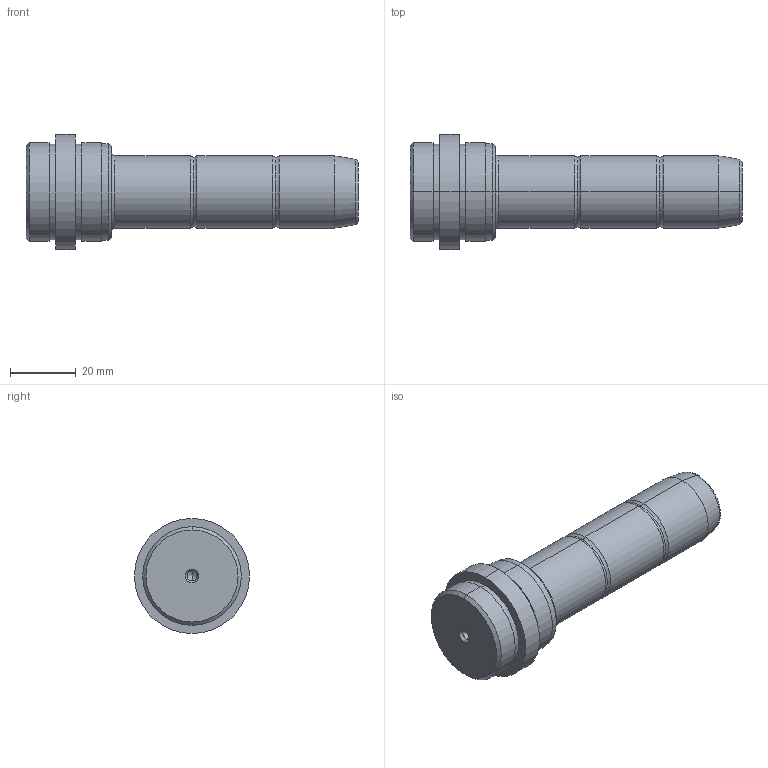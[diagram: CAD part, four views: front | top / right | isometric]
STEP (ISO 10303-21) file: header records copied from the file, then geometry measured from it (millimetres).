
FILE_DESCRIPTION( ( 'STEP AP203' ), '1' );
FILE_NAME( 'C:/Projects/D03 - 22x17x75.step', '2003-01-03T00:36:16', ( ' ' ), ( ' ' ), 'XStep 1.0', ' ', ' ' );
FILE_SCHEMA( ( 'CONFIG_CONTROL_DESIGN' ) );
Length unit declared in the file: metre
Products named in the file (1): 1
Bounding box: 101 x 35 x 35 mm (x, y, z)
Volume: 47794.5 mm3; surface area: 9642.7 mm2
Topology: 1 solids, 1 shells, 56 faces, 113 edges, 64 vertices
Faces by surface type: revolution 36, bspline 20
Entity records: 1691 total; most frequent: CARTESIAN_POINT 513, ORIENTED_EDGE 220, DIRECTION 218, EDGE_CURVE 110, AXIS2_PLACEMENT_3D 73, CIRCLE 72, EDGE_LOOP 64, VERTEX_POINT 64
